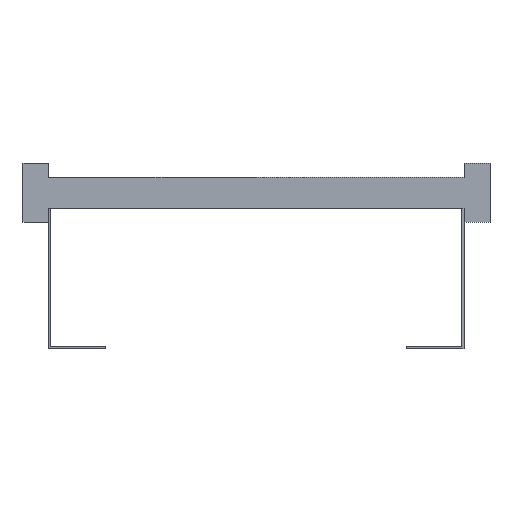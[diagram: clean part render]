
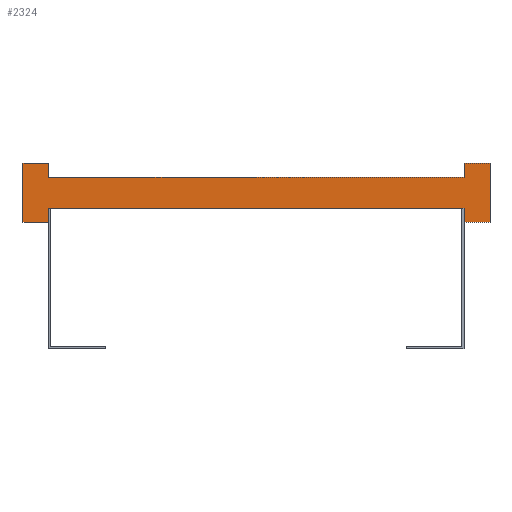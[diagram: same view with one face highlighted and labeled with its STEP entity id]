
A CAD part, front view. The second image highlights one B-rep face of the part: STEP entity #2324.
In plain terms, the highlighted planar face has unit normal (0, -1, 0).
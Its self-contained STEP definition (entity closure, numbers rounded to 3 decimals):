
#1=DIRECTION('',(0.,0.,1.));
#2=VECTOR('',#1,13.5);
#3=CARTESIAN_POINT('',(200.,0.,-28.5));
#4=LINE('',#3,#2);
#5=DIRECTION('',(0.,0.,-1.));
#6=VECTOR('',#5,13.5);
#7=CARTESIAN_POINT('',(-200.,0.,-15.));
#8=LINE('',#7,#6);
#9=DIRECTION('',(-1.,0.,0.));
#10=VECTOR('',#9,25.);
#11=CARTESIAN_POINT('',(-200.,0.,-28.5));
#12=LINE('',#11,#10);
#13=DIRECTION('',(0.,0.,1.));
#14=VECTOR('',#13,57.);
#15=CARTESIAN_POINT('',(-225.,0.,-28.5));
#16=LINE('',#15,#14);
#17=DIRECTION('',(1.,0.,0.));
#18=VECTOR('',#17,25.);
#19=CARTESIAN_POINT('',(-225.,0.,28.5));
#20=LINE('',#19,#18);
#21=DIRECTION('',(0.,0.,-1.));
#22=VECTOR('',#21,13.5);
#23=CARTESIAN_POINT('',(-200.,0.,28.5));
#24=LINE('',#23,#22);
#25=DIRECTION('',(0.,0.,1.));
#26=VECTOR('',#25,13.5);
#27=CARTESIAN_POINT('',(200.,0.,15.));
#28=LINE('',#27,#26);
#29=DIRECTION('',(1.,0.,0.));
#30=VECTOR('',#29,25.);
#31=CARTESIAN_POINT('',(200.,0.,28.5));
#32=LINE('',#31,#30);
#33=DIRECTION('',(0.,0.,-1.));
#34=VECTOR('',#33,57.);
#35=CARTESIAN_POINT('',(225.,0.,28.5));
#36=LINE('',#35,#34);
#37=DIRECTION('',(-1.,0.,0.));
#38=VECTOR('',#37,25.);
#39=CARTESIAN_POINT('',(225.,0.,-28.5));
#40=LINE('',#39,#38);
#1713=DIRECTION('',(1.,0.,0.));
#1714=VECTOR('',#1713,400.);
#1715=CARTESIAN_POINT('',(-200.,0.,-15.));
#1716=LINE('',#1715,#1714);
#1725=DIRECTION('',(1.,0.,0.));
#1726=VECTOR('',#1725,400.);
#1727=CARTESIAN_POINT('',(-200.,0.,15.));
#1728=LINE('',#1727,#1726);
#1729=CARTESIAN_POINT('',(-225.,0.,28.5));
#1730=CARTESIAN_POINT('',(-200.,0.,28.5));
#1731=VERTEX_POINT('',#1729);
#1732=VERTEX_POINT('',#1730);
#1733=CARTESIAN_POINT('',(-200.,0.,-28.5));
#1734=CARTESIAN_POINT('',(-225.,0.,-28.5));
#1735=VERTEX_POINT('',#1733);
#1736=VERTEX_POINT('',#1734);
#1737=CARTESIAN_POINT('',(225.,0.,28.5));
#1738=CARTESIAN_POINT('',(225.,0.,-28.5));
#1739=VERTEX_POINT('',#1737);
#1740=VERTEX_POINT('',#1738);
#1741=CARTESIAN_POINT('',(200.,0.,-28.5));
#1742=VERTEX_POINT('',#1741);
#1743=CARTESIAN_POINT('',(200.,0.,28.5));
#1744=VERTEX_POINT('',#1743);
#1761=CARTESIAN_POINT('',(-200.,0.,-15.));
#1763=VERTEX_POINT('',#1761);
#1765=CARTESIAN_POINT('',(-200.,0.,15.));
#1767=VERTEX_POINT('',#1765);
#1769=CARTESIAN_POINT('',(200.,0.,-15.));
#1771=VERTEX_POINT('',#1769);
#1773=CARTESIAN_POINT('',(200.,0.,15.));
#1775=VERTEX_POINT('',#1773);
#2293=CARTESIAN_POINT('',(0.,0.,0.));
#2294=DIRECTION('',(0.,1.,0.));
#2295=DIRECTION('',(1.,0.,0.));
#2296=AXIS2_PLACEMENT_3D('',#2293,#2294,#2295);
#2297=PLANE('',#2296);
#2299=ORIENTED_EDGE('',*,*,#2298,.T.);
#2301=ORIENTED_EDGE('',*,*,#2300,.F.);
#2303=ORIENTED_EDGE('',*,*,#2302,.T.);
#2305=ORIENTED_EDGE('',*,*,#2304,.T.);
#2307=ORIENTED_EDGE('',*,*,#2306,.T.);
#2309=ORIENTED_EDGE('',*,*,#2308,.T.);
#2311=ORIENTED_EDGE('',*,*,#2310,.T.);
#2313=ORIENTED_EDGE('',*,*,#2312,.T.);
#2315=ORIENTED_EDGE('',*,*,#2314,.T.);
#2317=ORIENTED_EDGE('',*,*,#2316,.T.);
#2319=ORIENTED_EDGE('',*,*,#2318,.T.);
#2321=ORIENTED_EDGE('',*,*,#2320,.T.);
#2322=EDGE_LOOP('',(#2299,#2301,#2303,#2305,#2307,#2309,#2311,#2313,#2315,#2317,
#2319,#2321));
#2323=FACE_OUTER_BOUND('',#2322,.F.);
#2324=ADVANCED_FACE('',(#2323),#2297,.F.);
#2298=EDGE_CURVE('',#1742,#1771,#4,.T.);
#2300=EDGE_CURVE('',#1763,#1771,#1716,.T.);
#2302=EDGE_CURVE('',#1763,#1735,#8,.T.);
#2304=EDGE_CURVE('',#1735,#1736,#12,.T.);
#2306=EDGE_CURVE('',#1736,#1731,#16,.T.);
#2308=EDGE_CURVE('',#1731,#1732,#20,.T.);
#2310=EDGE_CURVE('',#1732,#1767,#24,.T.);
#2312=EDGE_CURVE('',#1767,#1775,#1728,.T.);
#2314=EDGE_CURVE('',#1775,#1744,#28,.T.);
#2316=EDGE_CURVE('',#1744,#1739,#32,.T.);
#2318=EDGE_CURVE('',#1739,#1740,#36,.T.);
#2320=EDGE_CURVE('',#1740,#1742,#40,.T.);
